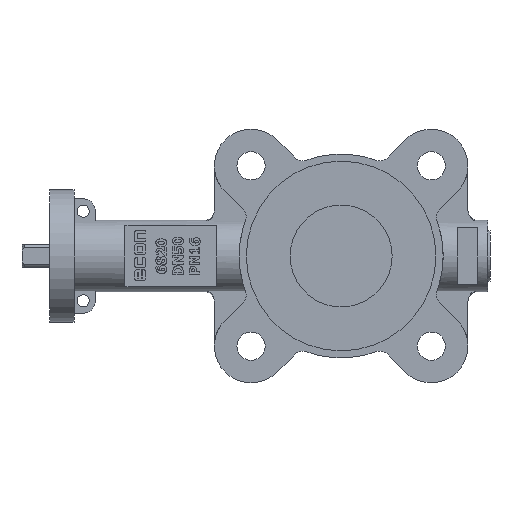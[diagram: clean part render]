
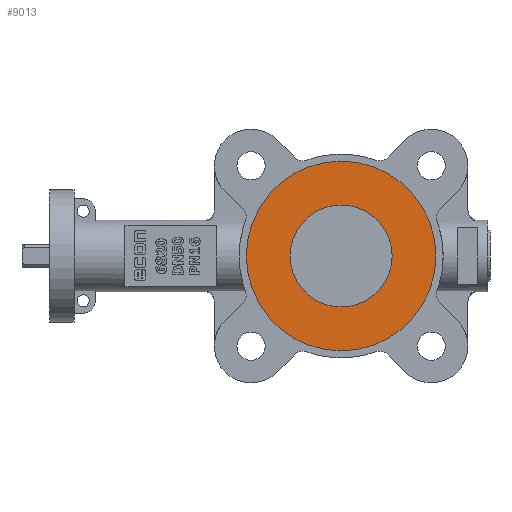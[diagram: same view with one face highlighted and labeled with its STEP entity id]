
A CAD part, left-side view. The second image highlights one B-rep face of the part: STEP entity #9013.
In plain terms, the highlighted planar face has unit normal (-1, 0, 0).
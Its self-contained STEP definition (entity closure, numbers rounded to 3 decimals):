
#213=FACE_BOUND('',#1722,.T.);
#463=PLANE('',#9567);
#1199=FACE_OUTER_BOUND('',#1721,.T.);
#1721=EDGE_LOOP('',(#8004));
#1722=EDGE_LOOP('',(#8005));
#3364=CIRCLE('',#9202,46.5);
#3449=CIRCLE('',#9526,25.);
#3612=VERTEX_POINT('',#12094);
#4264=VERTEX_POINT('',#16156);
#4500=EDGE_CURVE('',#3612,#3612,#3364,.T.);
#5485=EDGE_CURVE('',#4264,#4264,#3449,.T.);
#8004=ORIENTED_EDGE('',*,*,#4500,.T.);
#8005=ORIENTED_EDGE('',*,*,#5485,.T.);
#9013=ADVANCED_FACE('',(#1199,#213),#463,.F.);
#9202=AXIS2_PLACEMENT_3D('',#12096,#10000,#10001);
#9526=AXIS2_PLACEMENT_3D('',#16157,#11286,#11287);
#9567=AXIS2_PLACEMENT_3D('',#16244,#11397,#11398);
#10000=DIRECTION('center_axis',(-1.,0.,0.));
#10001=DIRECTION('ref_axis',(0.,-1.,0.));
#11286=DIRECTION('center_axis',(1.,0.,0.));
#11287=DIRECTION('ref_axis',(0.,0.,-1.));
#11397=DIRECTION('center_axis',(1.,0.,0.));
#11398=DIRECTION('ref_axis',(0.,0.,-1.));
#12094=CARTESIAN_POINT('',(-22.309,-1.416,0.));
#12096=CARTESIAN_POINT('Origin',(-22.309,-47.916,0.));
#16156=CARTESIAN_POINT('',(-22.309,-47.916,25.));
#16157=CARTESIAN_POINT('Origin',(-22.309,-47.916,0.));
#16244=CARTESIAN_POINT('Origin',(-22.309,-47.916,0.));
